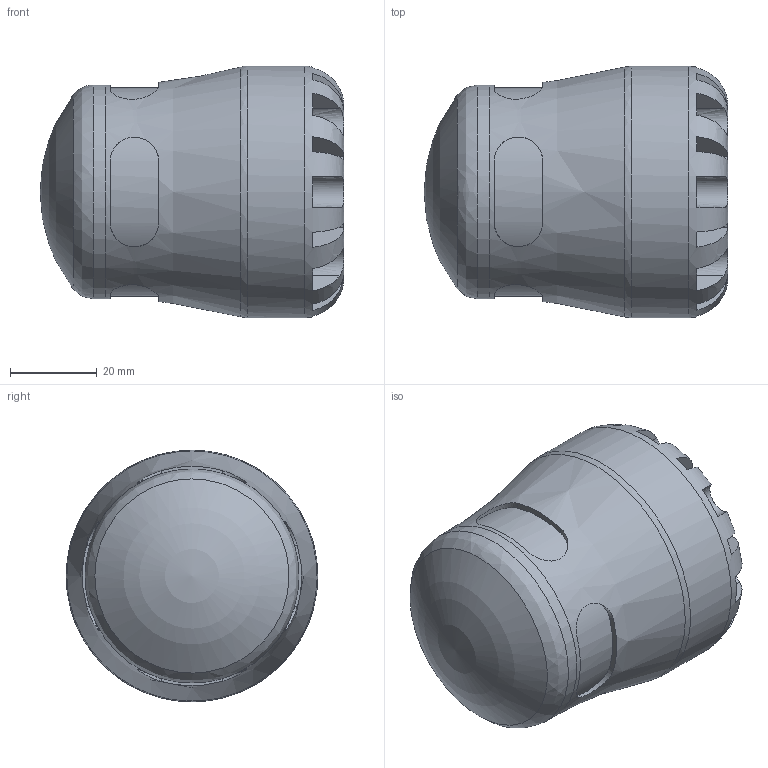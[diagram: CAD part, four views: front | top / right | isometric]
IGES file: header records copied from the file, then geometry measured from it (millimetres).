
Global section: file name: 151200032; native system: Autodesk Inventor 2019; preprocessor: unknown; author: KIM; date: 20231021.225214; units: millimetre
Bounding box: 70 x 58 x 57.99 mm (x, y, z)
Volume: 95585.9 mm3; surface area: 21747.1 mm2
Topology: 1 solids, 1 shells, 95 faces, 249 edges, 160 vertices
Faces by surface type: bspline 95
